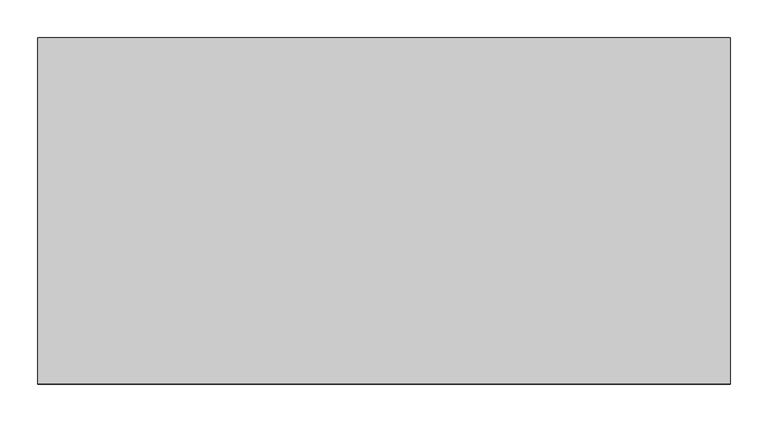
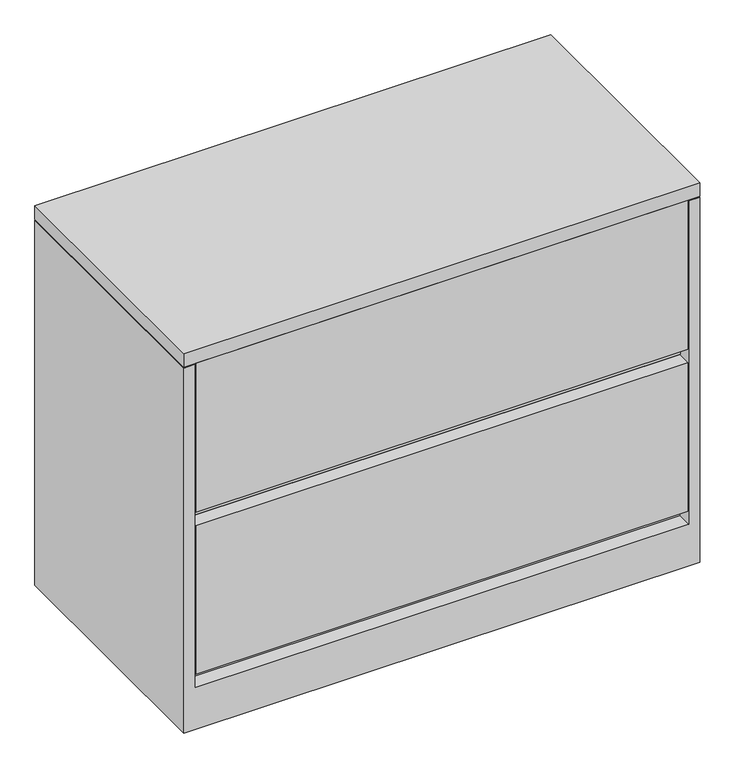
"""IFC4 building model written with IfcOpenShell, lengths in millimetres: furniture geometry, Steelcase - 900 Series - Storage - Lateral File With Roll Out Shelf - Flush Steel : 28H x 36W."""

from ifc_helpers import new_model, si_unit, frame, origin, place, context, project, spatial, polyline, outline, extrude, faceted_brep, source, transform, mapped, element, save


def furniture_8986d7b3(model_context):
    return source(origin(), model_context, "Body", "SolidModel", [
        faceted_brep([(895.0960184, -25.2721219, 684.276), (895.0960184, -457.2, 684.276), (914.4, -457.2, 684.276), (914.4, 0.0, 684.276), (0.0, 0.0, 684.276), (0.0, -457.2, 684.276), (19.3039998, -457.2, 684.276), (19.3039998, -25.2721219, 684.276), (0.0, -457.2, 0.0), (0.0, 0.0, 0.0), (914.4, 0.0, 0.0), (914.4, -457.2, 0.0), (895.0960184, -25.2721219, 406.7048), (895.0960184, -431.800255, 406.7048), (895.0960184, -431.800255, 381.254), (895.0960184, -25.2721219, 381.254), (895.0960184, -25.2721219, 103.3780013), (895.0960184, -430.275847, 103.3780013), (895.0960184, -430.275847, 77.9779983), (895.0960184, -457.2, 77.9779983), (19.3039998, -457.2, 77.9779983), (19.3039998, -430.275847, 77.9779983), (19.3039998, -430.275847, 103.3780013), (19.3039998, -25.2721219, 103.3780013), (19.3039998, -25.2721219, 381.254), (19.3039998, -431.800255, 381.254), (19.3039998, -431.800255, 406.7048), (19.3039998, -25.2721219, 406.7048)], [[[0, 1, 2, 3, 4, 5, 6, 7]], [[8, 9, 10, 11]], [[1, 0, 12, 13, 14, 15, 16, 17, 18, 19]], [[2, 1, 19, 20, 6, 5, 8, 11]], [[3, 2, 11, 10]], [[4, 3, 10, 9]], [[5, 4, 9, 8]], [[7, 6, 20, 21, 22, 23, 24, 25, 26, 27]], [[0, 7, 27, 12]], [[16, 15, 24, 23]], [[18, 21, 20, 19]], [[22, 17, 16, 23]], [[21, 18, 17, 22]], [[26, 13, 12, 27]], [[13, 26, 25, 14]], [[14, 25, 24, 15]]]),
        faceted_brep([(914.4, 0.0, 711.2), (0.0, 0.0, 711.2), (0.0, -457.2, 711.2), (914.4, -457.2, 711.2), (914.4, 0.0, 685.7999516), (914.4, -457.2, 685.7999516), (0.0, -457.2, 685.7999516), (0.0, 0.0, 685.7999516), (895.0960184, -25.2721219, 685.7999516), (20.8289612, -25.2721219, 685.7999516), (20.8289612, -415.9241219, 685.7999516), (895.0960184, -415.9241219, 685.7999516), (895.0960184, -25.2721219, 684.276), (895.0960184, -415.9241219, 684.276), (20.8289612, -415.9241219, 684.276), (20.8289612, -25.2721219, 684.276)], [[[0, 1, 2, 3]], [[4, 5, 6, 7], [8, 9, 10, 11]], [[1, 0, 4, 7]], [[2, 1, 7, 6]], [[3, 2, 6, 5]], [[0, 3, 5, 4]], [[12, 13, 14, 15]], [[12, 15, 9, 8]], [[15, 14, 10, 9]], [[14, 13, 11, 10]], [[13, 12, 8, 11]]]),
        extrude(outline(polyline([(893.5722015, -457.2), (20.8289612, -457.2), (20.8289612, -431.800255), (893.5722015, -431.800255), (893.5722015, -457.2)])), frame((0.0, 0.0, 103.3780013), z_axis=(0.0, 0.0, 1.0), x_axis=(1.0, 0.0, 0.0)), (0.0, 0.0, 1.0), 277.8759987),
        extrude(outline(polyline([(893.5722015, -457.2), (20.8289612, -457.2), (20.8289612, -431.800255), (893.5722015, -431.800255), (893.5722015, -457.2)])), frame((0.0, 0.0, 406.7048), z_axis=(0.0, 0.0, 1.0), x_axis=(1.0, 0.0, 0.0)), (0.0, 0.0, 1.0), 279.4),
    ])


if __name__ == "__main__":
    model = new_model("IFC4")
    model_context = context("Model", 3, world=origin())
    ifc_project = project(units=[si_unit("LENGTHUNIT", "METRE", prefix="MILLI")], contexts=[model_context])
    site = spatial("IfcSite", under=ifc_project)
    building = spatial("IfcBuilding", under=site)
    placement = place(None, origin())
    furniture_shape = furniture_8986d7b3(model_context)
    element("IfcFurniture", 1, ObjectType="Steelcase - 900 Series - Storage - Lateral File With Roll Out Shelf - Flush Steel : 28H x 36W", at=placement, inside=building, context=model_context, shape_type="MappedRepresentation", body=[
        mapped(furniture_shape, transform((0.0, 0.0, 0.0), x_axis=(1.0, 0.0, 0.0), y_axis=(0.0, 1.0, 0.0), z_axis=(0.0, 0.0, 1.0))),
    ])
    save(model, "model.ifc")
